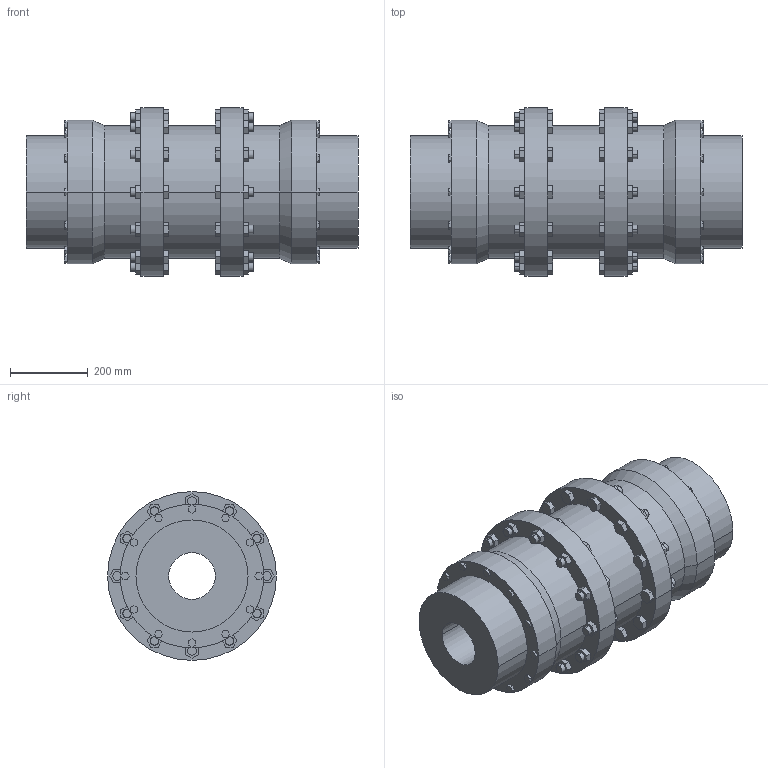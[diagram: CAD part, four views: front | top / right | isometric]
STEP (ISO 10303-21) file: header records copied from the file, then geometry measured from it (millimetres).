
FILE_DESCRIPTION((''),'2;1');
FILE_NAME('A19029100-0_ASM','2018-10-17T',('AB_Roschiwal'),('RENK AG'),'PRO/ENGINEER BY PARAMETRIC TECHNOLOGY CORPORATION, 2015440','PRO/ENGINEER BY PARAMETRIC TECHNOLOGY CORPORATION, 2015440','');
FILE_SCHEMA(('CONFIG_CONTROL_DESIGN'));
Length unit declared in the file: millimetre
Products named in the file (3): SBLK180_GEHAEUSE; SBLK180_NABE; A19029100-0_ASM
Assembly tree (3 placements, depth 2):
  A19029100-0_ASM
    SBLK180_GEHAEUSE
    SBLK180_NABE  x2
Bounding box: 855 x 435 x 435 mm (x, y, z)
Volume: 46367877.7 mm3; surface area: 2622110.1 mm2
Topology: 3 solids, 3 shells, 632 faces, 1552 edges, 1032 vertices
Faces by surface type: plane 544, cylinder 84, cone 4
Entity records: 18164 total; most frequent: CARTESIAN_POINT 3170, ORIENTED_EDGE 3056, DIRECTION 2932, EDGE_CURVE 1528, VECTOR 1376, LINE 1376, VERTEX_POINT 1016, AXIS2_PLACEMENT_3D 778
